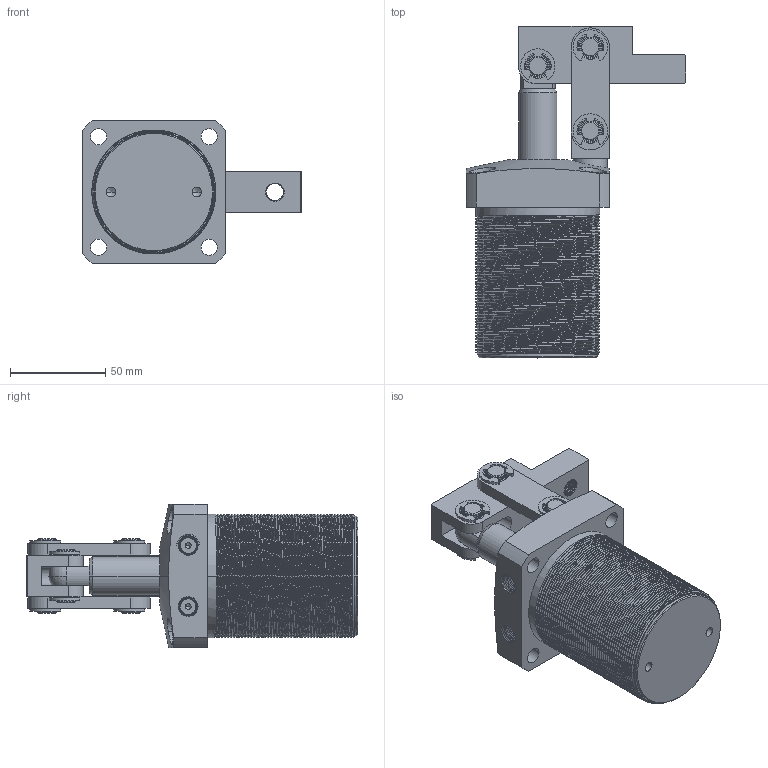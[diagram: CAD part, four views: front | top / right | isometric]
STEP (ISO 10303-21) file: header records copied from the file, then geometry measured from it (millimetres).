
FILE_DESCRIPTION((''),'2;1');
FILE_NAME('CPLCU-50_ASM','2010-03-01T',('Administrator'),(''),'PRO/ENGINEER BY PARAMETRIC TECHNOLOGY CORPORATION, 2007170','PRO/ENGINEER BY PARAMETRIC TECHNOLOGY CORPORATION, 2007170','');
FILE_SCHEMA(('CONFIG_CONTROL_DESIGN'));
Length unit declared in the file: millimetre
Products named in the file (10): CPLCU-50-07; CPLCU-50-05; CPLCU-50-06; CPLCU-50-01; CPLCU-50-02; CPLCU-50-08; CPLCU-50-03; CPLCU-50-04; CPLCU-50-09; CPLCU-50_ASM
Assembly tree (21 placements, depth 2):
  CPLCU-50_ASM
    CPLCU-50-07
    CPLCU-50-05
    CPLCU-50-06
    CPLCU-50-01
    CPLCU-50-02  x2
    CPLCU-50-08  x6
    CPLCU-50-03
    CPLCU-50-04  x2
    CPLCU-50-09  x6
Bounding box: 115 x 174 x 75 mm (x, y, z)
Volume: 384941.3 mm3; surface area: 105768.3 mm2
Topology: 21 solids, 21 shells, 814 faces, 2065 edges, 1316 vertices
Faces by surface type: cylinder 429, cone 152, plane 148, bspline 71, torus 12, sphere 2
Entity records: 40832 total; most frequent: CARTESIAN_POINT 27561, ORIENTED_EDGE 2950, DIRECTION 2310, EDGE_CURVE 1475, VERTEX_POINT 948, AXIS2_PLACEMENT_3D 866, EDGE_LOOP 637, VECTOR 578
